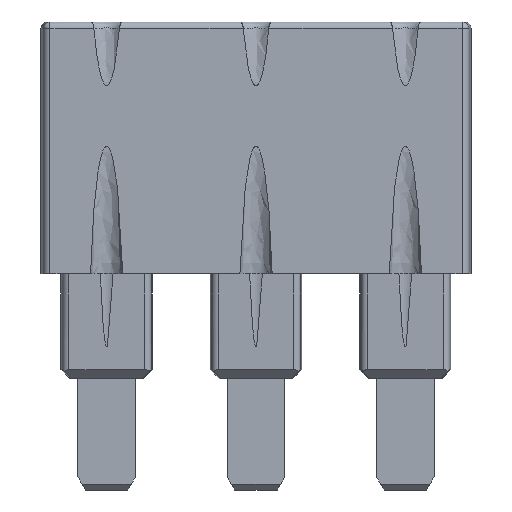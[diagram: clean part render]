
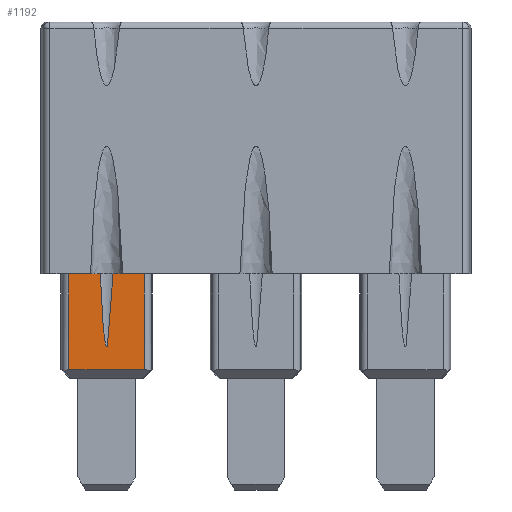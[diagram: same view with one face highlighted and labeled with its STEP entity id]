
A CAD part, left-side view. The second image highlights one B-rep face of the part: STEP entity #1192.
In plain terms, the highlighted planar face has unit normal (-1, 0, -0.018).
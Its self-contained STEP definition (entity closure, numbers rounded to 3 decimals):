
#866=ELLIPSE('',#5261,42.974,0.75);
#912=FACE_OUTER_BOUND('',#2562,.T.);
#1192=ADVANCED_FACE('',(#912),#1426,.T.);
#1426=PLANE('',#5262);
#1695=LINE('',#7592,#2152);
#1701=LINE('',#7617,#2158);
#1718=LINE('',#7670,#2175);
#1719=LINE('',#7672,#2176);
#1720=LINE('',#7674,#2177);
#2152=VECTOR('',#5705,1.);
#2158=VECTOR('',#5729,1.);
#2175=VECTOR('',#5780,1.);
#2176=VECTOR('',#5781,1.);
#2177=VECTOR('',#5782,1.);
#2562=EDGE_LOOP('',(#2995,#2996,#2997,#2998,#2999,#3000));
#2995=ORIENTED_EDGE('',*,*,#4547,.F.);
#2996=ORIENTED_EDGE('',*,*,#4590,.T.);
#2997=ORIENTED_EDGE('',*,*,#4591,.T.);
#2998=ORIENTED_EDGE('',*,*,#4592,.T.);
#2999=ORIENTED_EDGE('',*,*,#4561,.F.);
#3000=ORIENTED_EDGE('',*,*,#4593,.T.);
#4147=VERTEX_POINT('',#7591);
#4148=VERTEX_POINT('',#7593);
#4157=VERTEX_POINT('',#7616);
#4158=VERTEX_POINT('',#7618);
#4177=VERTEX_POINT('',#7671);
#4178=VERTEX_POINT('',#7673);
#4547=EDGE_CURVE('',#4147,#4148,#1695,.T.);
#4561=EDGE_CURVE('',#4157,#4158,#1701,.T.);
#4590=EDGE_CURVE('',#4147,#4177,#1718,.T.);
#4591=EDGE_CURVE('',#4177,#4178,#1719,.T.);
#4592=EDGE_CURVE('',#4178,#4158,#1720,.T.);
#4593=EDGE_CURVE('',#4157,#4148,#866,.T.);
#5261=AXIS2_PLACEMENT_3D('',#7675,#5783,#5784);
#5262=AXIS2_PLACEMENT_3D('',#7676,#5785,#5786);
#5705=DIRECTION('',(0.,-1.,0.));
#5729=DIRECTION('',(0.,-1.,0.));
#5780=DIRECTION('',(0.017,0.002,-1.));
#5781=DIRECTION('',(0.,-1.,0.));
#5782=DIRECTION('',(-0.017,0.002,1.));
#5783=DIRECTION('',(1.,0.,0.017));
#5784=DIRECTION('',(-0.017,0.,1.));
#5785=DIRECTION('',(-1.,0.,-0.017));
#5786=DIRECTION('',(0.017,0.,-1.));
#7591=CARTESIAN_POINT('',(-0.957,8.391,0.));
#7592=CARTESIAN_POINT('',(-0.957,6.7,0.));
#7593=CARTESIAN_POINT('',(-0.957,6.987,0.));
#7616=CARTESIAN_POINT('',(-0.957,6.413,0.));
#7617=CARTESIAN_POINT('',(-0.957,6.7,0.));
#7618=CARTESIAN_POINT('',(-0.957,5.009,0.));
#7670=CARTESIAN_POINT('',(-0.875,8.399,-4.697));
#7671=CARTESIAN_POINT('',(-0.882,8.398,-4.3));
#7672=CARTESIAN_POINT('',(-0.882,4.727,-4.3));
#7673=CARTESIAN_POINT('',(-0.882,5.002,-4.3));
#7674=CARTESIAN_POINT('',(-0.875,5.001,-4.697));
#7675=CARTESIAN_POINT('',(-1.65,6.7,39.7));
#7676=CARTESIAN_POINT('',(-0.875,6.7,-4.7));
